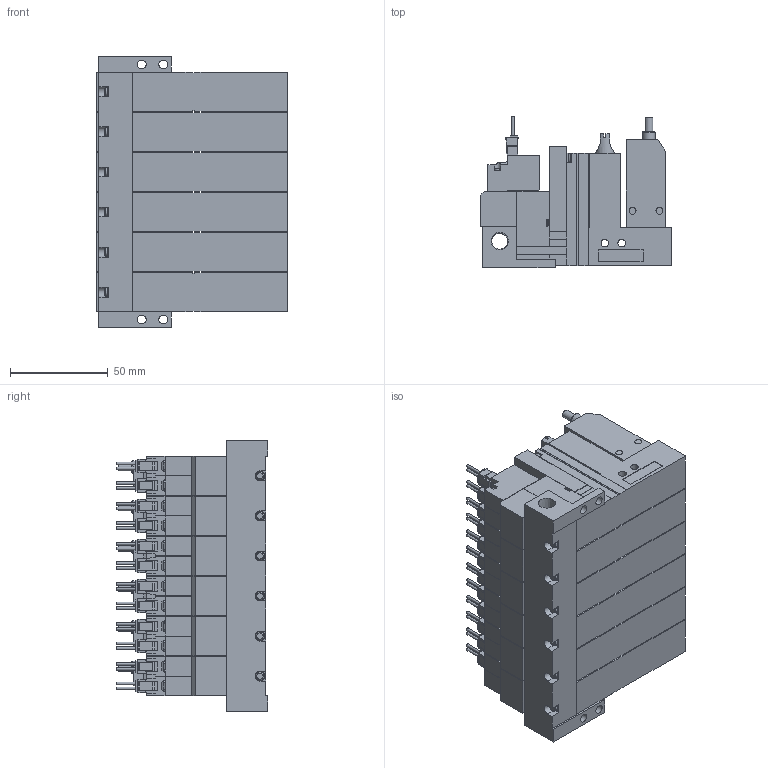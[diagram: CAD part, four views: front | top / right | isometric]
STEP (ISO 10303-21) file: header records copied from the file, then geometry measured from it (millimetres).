
FILE_DESCRIPTION(('STEP AP203'),'1');
FILE_NAME('ABS_ABPLC5BLR606.stp','2025-02-19T02:16:27',(' '),(' '),'Spatial InterOp 3D',' ',' ');
FILE_SCHEMA(('CONFIG_CONTROL_DESIGN'));
Length unit declared in the file: millimetre
Products named in the file (5): BMC22M※※※※ABS_ABPLC5BLR606; Solenoid valve B; Pressure sensor ABSLC; Unit LC; Base MR60R
Assembly tree (19 placements, depth 2):
  BMC22M※※※※ABS_ABPLC5BLR606
    Solenoid valve B  x6
    Pressure sensor ABSLC  x6
    Unit LC  x6
    Base MR60R
Bounding box: 97.6 x 77.45 x 138.5 mm (x, y, z)
Volume: 609042.1 mm3; surface area: 159069.4 mm2
Topology: 19 solids, 19 shells, 2343 faces, 6287 edges, 4132 vertices
Faces by surface type: plane 1994, cylinder 269, cone 44, torus 36
Full cylindrical faces by diameter (mm): 1.4 x24, 2.5 x6, 3 x24, 3.5 x36, 3.6 x6, 4 x18, 4.134 x6, 4.5 x4, 5.2 x6, 6 x6, 6.5 x6, 6.6 x6, 8.279 x1
Entity records: 15121 total; most frequent: CARTESIAN_POINT 2923, DIRECTION 2405, ORIENTED_EDGE 2348, EDGE_CURVE 1174, LINE 945, VECTOR 945, VERTEX_POINT 822, AXIS2_PLACEMENT_3D 730
